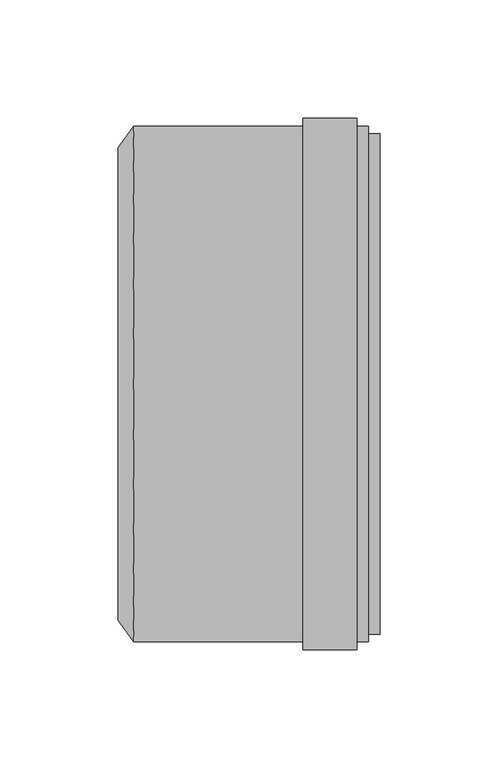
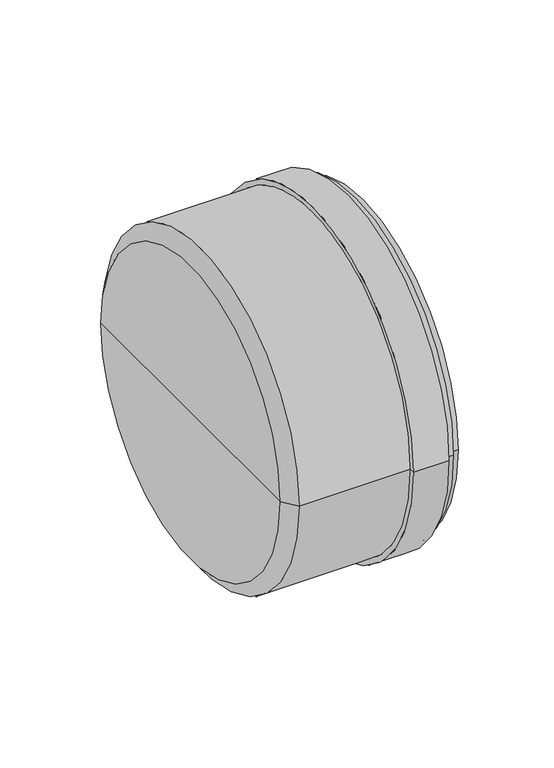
"""IFC4 building model written with IfcOpenShell, lengths in millimetres: pipe fitting geometry, pf_KGM_zatka : pf_KGM_zatka."""

from ifc_helpers import new_model, si_unit, frame, origin, place, context, project, spatial, polyline, circle_curve, source, transform, mapped, element, save
from ifc_brep_helpers import plane_surface, cylinder_surface, revolved_surface, advanced_brep


def pipe_fitting_6a65c738(model_context):
    return source(origin(), model_context, "Body", "AdvancedBrep", [
        advanced_brep(
        [(-106.0, -100.0, 0.0), (-106.0, 100.0, 0.0), (-99.3, 109.1, 0.0), (-99.3, -109.1, 0.0), (-106.0, 0.0, 0.0), (0.0, -109.1, 0.0), (0.0, 109.1, 0.0), (0.0, 100.0, 0.0), (0.0, -100.0, 0.0), (-4.8, -109.1, 0.0), (-4.8, 109.1, 0.0), (-4.8, -112.5, 0.0), (-4.8, 112.5, 0.0), (-27.6, -112.5, 0.0), (-27.6, 112.5, 0.0), (-27.6, -109.1, 0.0), (-27.6, 109.1, 0.0), (-99.3, -100.0, 0.0), (-99.3, 100.0, 0.0), (-99.3, 0.0, 0.0)],
        [
            (0, 1, circle_curve(frame((-106.0, 0.0, 0.0), z_axis=(1.0, 0.0, 0.0), x_axis=(0.0, 1.0, 0.0)), 100.0)),
            (1, 2),
            (2, 3, circle_curve(frame((-99.3, 0.0, 0.0), z_axis=(-1.0, 0.0, 0.0), x_axis=(0.0, 1.0, 0.0)), 109.1)),
            (3, 0),
            (1, 0, circle_curve(frame((-106.0, 0.0, 0.0), z_axis=(1.0, 0.0, 0.0), x_axis=(0.0, 1.0, 0.0)), 100.0)),
            (3, 2, circle_curve(frame((-99.3, 0.0, 0.0), z_axis=(-1.0, 0.0, 0.0), x_axis=(0.0, 1.0, 0.0)), 109.1)),
            (4, 1),
            (0, 4),
            (5, 6, circle_curve(frame((0.0, 0.0, 0.0), z_axis=(1.0, 0.0, 0.0), x_axis=(0.0, 1.0, 0.0)), 109.1)),
            (6, 7),
            (7, 8, circle_curve(frame((0.0, 0.0, 0.0), z_axis=(-1.0, 0.0, 0.0), x_axis=(0.0, 1.0, 0.0)), 100.0)),
            (8, 5),
            (6, 5, circle_curve(frame((0.0, 0.0, 0.0), z_axis=(1.0, 0.0, 0.0), x_axis=(0.0, 1.0, 0.0)), 109.1)),
            (8, 7, circle_curve(frame((0.0, 0.0, 0.0), z_axis=(-1.0, 0.0, 0.0), x_axis=(0.0, 1.0, 0.0)), 100.0)),
            (9, 10, circle_curve(frame((-4.8, 0.0, 0.0), z_axis=(1.0, 0.0, 0.0), x_axis=(0.0, 1.0, 0.0)), 109.1)),
            (10, 6),
            (5, 9),
            (10, 9, circle_curve(frame((-4.8, 0.0, 0.0), z_axis=(1.0, 0.0, 0.0), x_axis=(0.0, 1.0, 0.0)), 109.1)),
            (11, 12, circle_curve(frame((-4.8, 0.0, 0.0), z_axis=(1.0, 0.0, 0.0), x_axis=(0.0, 1.0, 0.0)), 112.5)),
            (12, 10),
            (9, 11),
            (12, 11, circle_curve(frame((-4.8, 0.0, 0.0), z_axis=(1.0, 0.0, 0.0), x_axis=(0.0, 1.0, 0.0)), 112.5)),
            (13, 14, circle_curve(frame((-27.6, 0.0, 0.0), z_axis=(1.0, 0.0, 0.0), x_axis=(0.0, 1.0, 0.0)), 112.5)),
            (14, 12),
            (11, 13),
            (14, 13, circle_curve(frame((-27.6, 0.0, 0.0), z_axis=(1.0, 0.0, 0.0), x_axis=(0.0, 1.0, 0.0)), 112.5)),
            (15, 16, circle_curve(frame((-27.6, 0.0, 0.0), z_axis=(1.0, 0.0, 0.0), x_axis=(0.0, 1.0, 0.0)), 109.1)),
            (16, 14),
            (13, 15),
            (16, 15, circle_curve(frame((-27.6, 0.0, 0.0), z_axis=(1.0, 0.0, 0.0), x_axis=(0.0, 1.0, 0.0)), 109.1)),
            (2, 16),
            (15, 3),
            (17, 18, circle_curve(frame((-99.3, 0.0, 0.0), z_axis=(1.0, 0.0, 0.0), x_axis=(0.0, 1.0, 0.0)), 100.0)),
            (18, 19),
            (19, 17),
            (18, 17, circle_curve(frame((-99.3, 0.0, 0.0), z_axis=(1.0, 0.0, 0.0), x_axis=(0.0, 1.0, 0.0)), 100.0)),
            (7, 18),
            (17, 8),
        ],
        [
            revolved_surface(polyline([(-99.3, 109.1, 0.0), (-106.0, 100.0, 0.0)]), (-106.0, 0.0, 0.0), (-1.0, 0.0, 0.0)),
            plane_surface(frame((-106.0, 0.0, 0.0), z_axis=(-1.0, 0.0, 0.0), x_axis=(0.0, 1.0, 0.0))),
            plane_surface(frame((0.0, 0.0, 0.0), z_axis=(1.0, 0.0, 0.0), x_axis=(0.0, 1.0, 0.0))),
            cylinder_surface(frame((-106.0, 0.0, 0.0), z_axis=(-1.0, 0.0, 0.0), x_axis=(0.0, 1.0, 0.0)), 109.1),
            plane_surface(frame((-4.8, 0.0, 0.0), z_axis=(1.0, 0.0, 0.0), x_axis=(0.0, 1.0, 0.0))),
            cylinder_surface(frame((-106.0, 0.0, 0.0), z_axis=(-1.0, 0.0, 0.0), x_axis=(0.0, 1.0, 0.0)), 112.5),
            plane_surface(frame((-27.6, 0.0, 0.0), z_axis=(-1.0, 0.0, 0.0), x_axis=(0.0, 1.0, 0.0))),
            plane_surface(frame((-99.3, 0.0, 0.0), z_axis=(1.0, 0.0, 0.0), x_axis=(0.0, 1.0, 0.0))),
            revolved_surface(polyline([(-99.3, 100.0, 0.0), (0.0, 100.0, 0.0)]), (-106.0, 0.0, 0.0), (-1.0, 0.0, 0.0)),
        ],
        [
            (0, [[1, 2, 3, 4]]),
            (0, [[5, -4, 6, -2]]),
            (1, [[7, -1, 8]]),
            (1, [[-8, -5, -7]]),
            (2, [[9, 10, 11, 12]]),
            (2, [[13, -12, 14, -10]]),
            (3, [[15, 16, -9, 17]]),
            (3, [[18, -17, -13, -16]]),
            (4, [[19, 20, -15, 21]]),
            (4, [[22, -21, -18, -20]]),
            (5, [[23, 24, -19, 25]]),
            (5, [[26, -25, -22, -24]]),
            (6, [[27, 28, -23, 29]]),
            (6, [[30, -29, -26, -28]]),
            (3, [[-3, 31, -27, 32]]),
            (3, [[-6, -32, -30, -31]]),
            (7, [[33, 34, 35]]),
            (7, [[36, -35, -34]]),
            (8, [[-11, 37, -33, 38]]),
            (8, [[-14, -38, -36, -37]]),
        ],
    ),
        advanced_brep(
        [(-63.0, 0.0, 0.0), (-63.0, 100.0, 0.0), (-63.0, -100.0, 0.0), (4.9, -105.84, 0.0), (4.9, 105.84, 0.0), (4.9, 0.0, 0.0), (0.0, -105.84, 0.0), (0.0, 105.84, 0.0), (0.0, -100.94, 0.0), (0.0, 100.94, 0.0), (-59.0, -100.94, 0.0), (-59.0, 100.94, 0.0)],
        [
            (0, 1),
            (1, 2, circle_curve(frame((-63.0, 0.0, 0.0), z_axis=(-1.0, 0.0, 0.0), x_axis=(0.0, 1.0, 0.0)), 100.0)),
            (2, 0),
            (2, 1, circle_curve(frame((-63.0, 0.0, 0.0), z_axis=(-1.0, 0.0, 0.0), x_axis=(0.0, 1.0, 0.0)), 100.0)),
            (3, 4, circle_curve(frame((4.9, 0.0, 0.0), z_axis=(1.0, 0.0, 0.0), x_axis=(0.0, 1.0, 0.0)), 105.84)),
            (4, 5),
            (5, 3),
            (4, 3, circle_curve(frame((4.9, 0.0, 0.0), z_axis=(1.0, 0.0, 0.0), x_axis=(0.0, 1.0, 0.0)), 105.84)),
            (6, 7, circle_curve(frame((0.0, 0.0, 0.0), z_axis=(1.0, 0.0, 0.0), x_axis=(0.0, 1.0, 0.0)), 105.84)),
            (7, 4),
            (3, 6),
            (7, 6, circle_curve(frame((0.0, 0.0, 0.0), z_axis=(1.0, 0.0, 0.0), x_axis=(0.0, 1.0, 0.0)), 105.84)),
            (8, 9, circle_curve(frame((0.0, 0.0, 0.0), z_axis=(1.0, 0.0, 0.0), x_axis=(0.0, 1.0, 0.0)), 100.94)),
            (9, 7),
            (6, 8),
            (9, 8, circle_curve(frame((0.0, 0.0, 0.0), z_axis=(1.0, 0.0, 0.0), x_axis=(0.0, 1.0, 0.0)), 100.94)),
            (10, 11, circle_curve(frame((-59.0, 0.0, 0.0), z_axis=(1.0, 0.0, 0.0), x_axis=(0.0, 1.0, 0.0)), 100.94)),
            (11, 9),
            (8, 10),
            (11, 10, circle_curve(frame((-59.0, 0.0, 0.0), z_axis=(1.0, 0.0, 0.0), x_axis=(0.0, 1.0, 0.0)), 100.94)),
            (1, 11),
            (10, 2),
        ],
        [
            plane_surface(frame((-63.0, 0.0, 0.0), z_axis=(-1.0, 0.0, 0.0), x_axis=(0.0, 1.0, 0.0))),
            plane_surface(frame((4.9, 0.0, 0.0), z_axis=(1.0, 0.0, 0.0), x_axis=(0.0, 1.0, 0.0))),
            cylinder_surface(frame((-62.0241529, 0.0, 0.0), z_axis=(-1.0, 0.0, 0.0), x_axis=(0.0, 1.0, 0.0)), 105.84),
            plane_surface(frame((0.0, 0.0, 0.0), z_axis=(-1.0, 0.0, 0.0), x_axis=(0.0, 1.0, 0.0))),
            cylinder_surface(frame((-62.0241529, 0.0, 0.0), z_axis=(-1.0, 0.0, 0.0), x_axis=(0.0, 1.0, 0.0)), 100.94),
            revolved_surface(polyline([(-59.0, 100.94, 0.0), (-63.0, 100.0, 0.0)]), (-62.0241529, 0.0, 0.0), (-1.0, 0.0, 0.0)),
        ],
        [
            (0, [[1, 2, 3]]),
            (0, [[-3, 4, -1]]),
            (1, [[5, 6, 7]]),
            (1, [[8, -7, -6]]),
            (2, [[9, 10, -5, 11]]),
            (2, [[12, -11, -8, -10]]),
            (3, [[13, 14, -9, 15]]),
            (3, [[16, -15, -12, -14]]),
            (4, [[17, 18, -13, 19]]),
            (4, [[20, -19, -16, -18]]),
            (5, [[-2, 21, -17, 22]]),
            (5, [[-4, -22, -20, -21]]),
        ],
    ),
    ])


if __name__ == "__main__":
    model = new_model("IFC4")
    model_context = context("Model", 3, world=origin())
    ifc_project = project(units=[si_unit("LENGTHUNIT", "METRE", prefix="MILLI")], contexts=[model_context])
    site = spatial("IfcSite", under=ifc_project)
    building = spatial("IfcBuilding", under=site)
    placement = place(None, origin())
    pipe_fitting_shape = pipe_fitting_6a65c738(model_context)
    element("IfcPipeFitting", 1, ObjectType="pf_KGM_zatka : pf_KGM_zatka", at=placement, inside=building, context=model_context, shape_type="MappedRepresentation", body=[
        mapped(pipe_fitting_shape, transform((0.0, 0.0, 0.0), x_axis=(1.0, 0.0, 0.0), y_axis=(0.0, 1.0, 0.0), z_axis=(0.0, 0.0, 1.0))),
    ])
    save(model, "model.ifc")
